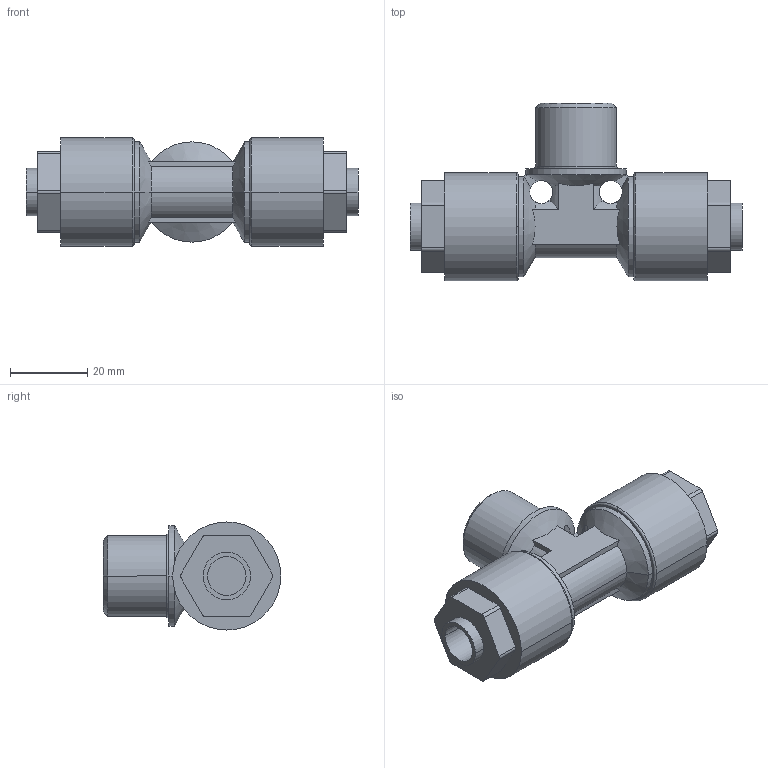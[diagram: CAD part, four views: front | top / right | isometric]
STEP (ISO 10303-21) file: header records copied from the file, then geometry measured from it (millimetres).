
FILE_DESCRIPTION( ( '' ), '1' );
FILE_NAME( 'G:/SMC狟婥/LQ1B44-M.stp', '2023-03-07T02:08:43', ( '' ), ( '' ), ' ', ' ', ' ' );
FILE_SCHEMA( ( 'CONFIG_CONTROL_DESIGN' ) );
Length unit declared in the file: millimetre
Products named in the file (1): 1
Bounding box: 86 x 46 x 28 mm (x, y, z)
Volume: 41180.4 mm3; surface area: 11684.6 mm2
Topology: 1 solids, 1 shells, 103 faces, 279 edges, 184 vertices
Faces by surface type: cylinder 48, plane 43, cone 8, torus 4
Entity records: 3881 total; most frequent: CARTESIAN_POINT 1295, ORIENTED_EDGE 558, DIRECTION 527, EDGE_CURVE 279, AXIS2_PLACEMENT_3D 208, VERTEX_POINT 184, EDGE_LOOP 113, LINE 111
